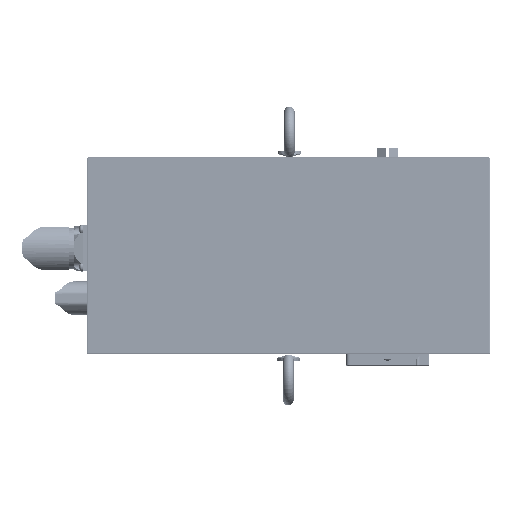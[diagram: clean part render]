
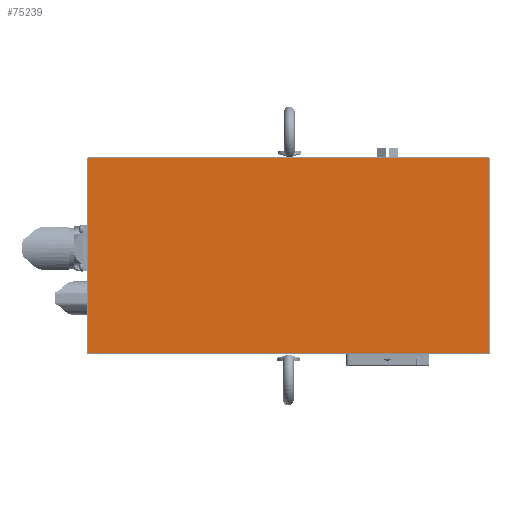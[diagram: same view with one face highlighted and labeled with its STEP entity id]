
A CAD part, top view. The second image highlights one B-rep face of the part: STEP entity #75239.
In plain terms, the highlighted planar face has unit normal (0, 0, 1).
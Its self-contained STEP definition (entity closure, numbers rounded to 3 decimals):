
#75200=CARTESIAN_POINT('',(-60.,62.5,418.));
#75201=DIRECTION('',(0.,1.,0.));
#75202=DIRECTION('',(0.,-0.,1.));
#75203=AXIS2_PLACEMENT_3D('',#75200,#75202,#75201);
#75204=PLANE('',#75203);
#75205=CARTESIAN_POINT('',(-181.5,-59.,418.));
#75206=VERTEX_POINT('',#75205);
#75207=CARTESIAN_POINT('',(61.5,-59.,418.));
#75208=VERTEX_POINT('',#75207);
#75209=CARTESIAN_POINT('',(-181.5,-59.,418.));
#75210=DIRECTION('',(1.,0.,0.));
#75211=VECTOR('',#75210,243.);
#75212=LINE('',#75209,#75211);
#75213=EDGE_CURVE('',#75206,#75208,#75212,.T.);
#75214=ORIENTED_EDGE('E5805',*,*,#75213,.T.);
#75215=CARTESIAN_POINT('',(61.5,59.,418.));
#75216=VERTEX_POINT('',#75215);
#75217=CARTESIAN_POINT('',(61.5,-59.,418.));
#75218=DIRECTION('',(0.,1.,0.));
#75219=VECTOR('',#75218,118.);
#75220=LINE('',#75217,#75219);
#75221=EDGE_CURVE('',#75208,#75216,#75220,.T.);
#75222=ORIENTED_EDGE('E5806',*,*,#75221,.T.);
#75223=CARTESIAN_POINT('',(-181.5,59.,418.));
#75224=VERTEX_POINT('',#75223);
#75225=CARTESIAN_POINT('',(61.5,59.,418.));
#75226=DIRECTION('',(-1.,0.,0.));
#75227=VECTOR('',#75226,243.);
#75228=LINE('',#75225,#75227);
#75229=EDGE_CURVE('',#75216,#75224,#75228,.T.);
#75230=ORIENTED_EDGE('E5807',*,*,#75229,.T.);
#75231=CARTESIAN_POINT('',(-181.5,59.,418.));
#75232=DIRECTION('',(0.,-1.,0.));
#75233=VECTOR('',#75232,118.);
#75234=LINE('',#75231,#75233);
#75235=EDGE_CURVE('',#75224,#75206,#75234,.T.);
#75236=ORIENTED_EDGE('E5808',*,*,#75235,.T.);
#75237=EDGE_LOOP('',(#75214,#75222,#75230,#75236));
#75238=FACE_OUTER_BOUND('',#75237,.T.);
#75239=ADVANCED_FACE('F2304',(#75238),#75204,.T.);
